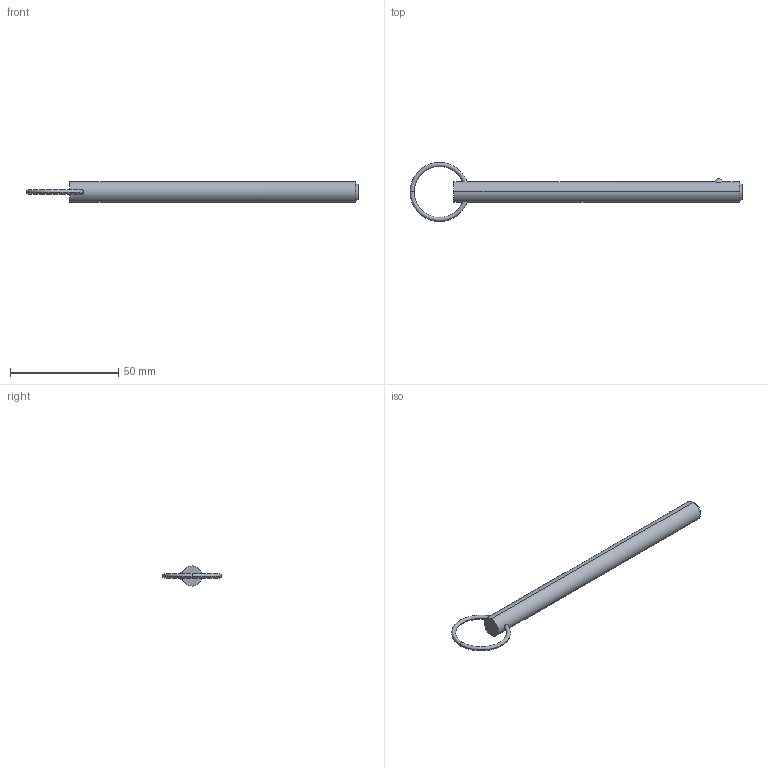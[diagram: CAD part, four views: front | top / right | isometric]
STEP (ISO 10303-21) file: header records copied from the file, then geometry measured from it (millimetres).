
FILE_DESCRIPTION (( 'STEP AP203' ), '1' );
FILE_NAME ('33012.W3745.step', '2024-11-01T14:10:21', ( '' ), ( '' ), 'SwSTEP 2.0', 'SolidWorks 2019', '' );
FILE_SCHEMA (( 'CONFIG_CONTROL_DESIGN' ));
Length unit declared in the file: millimetre
Products named in the file (3): 33012.W3745; Part2_33012.W3745; Part1_33012.W3745
Assembly tree (2 placements, depth 2):
  33012.W3745
    Part1_33012.W3745
    Part2_33012.W3745
Bounding box: 153.69 x 27.28 x 9.4 mm (x, y, z)
Volume: 9425.6 mm3; surface area: 4594.5 mm2
Topology: 2 solids, 2 shells, 16 faces, 31 edges, 18 vertices
Faces by surface type: torus 8, sphere 2, cone 2, cylinder 2, plane 2
Entity records: 849 total; most frequent: CARTESIAN_POINT 206, DIRECTION 88, ORIENTED_EDGE 62, AXIS2_PLACEMENT_3D 42, EDGE_CURVE 31, PERSON_AND_ORGANIZATION 26, CIRCLE 21, CALENDAR_DATE 19
